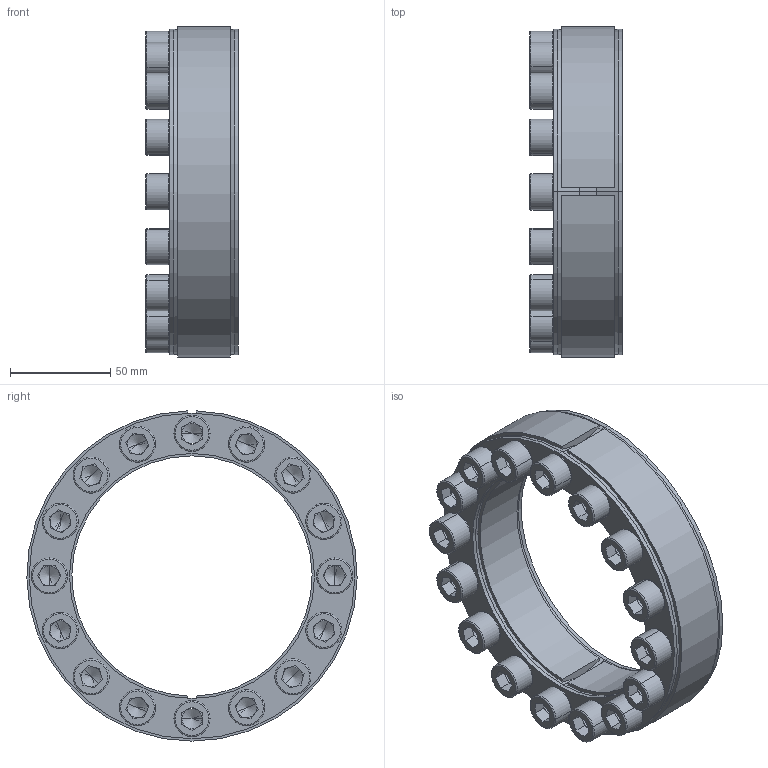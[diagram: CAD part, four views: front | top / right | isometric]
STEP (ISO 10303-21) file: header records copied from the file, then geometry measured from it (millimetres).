
FILE_DESCRIPTION (( 'STEP AP203' ), '1' );
FILE_NAME ('D1-120-165 Assy.STEP', '2017-10-11T07:53:19', ( 'MYCOM' ), ( '' ), 'SwSTEP 2.0', 'SolidWorks 2015', '' );
FILE_SCHEMA (( 'CONFIG_CONTROL_DESIGN' ));
Length unit declared in the file: millimetre
Products named in the file (1): D1-120-165 Assy
Bounding box: 46.2 x 164.99 x 164.98 mm (x, y, z)
Surface area: 97342.1 mm2 (no closed solid volume)
Topology: 0 solids, 36 shells, 435 faces, 1071 edges, 644 vertices
Faces by surface type: plane 222, cylinder 107, torus 64, cone 42
Entity records: 12579 total; most frequent: DIRECTION 2388, CARTESIAN_POINT 2155, ORIENTED_EDGE 1891, EDGE_CURVE 1039, AXIS2_PLACEMENT_3D 921, VERTEX_POINT 644, LINE 546, VECTOR 546
